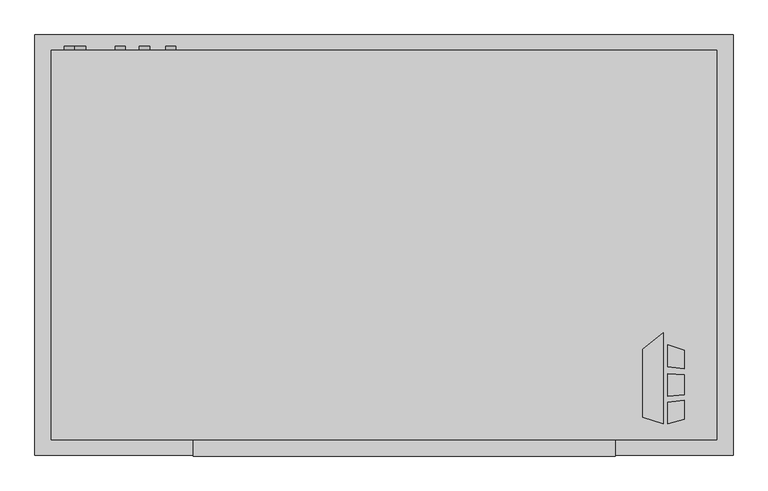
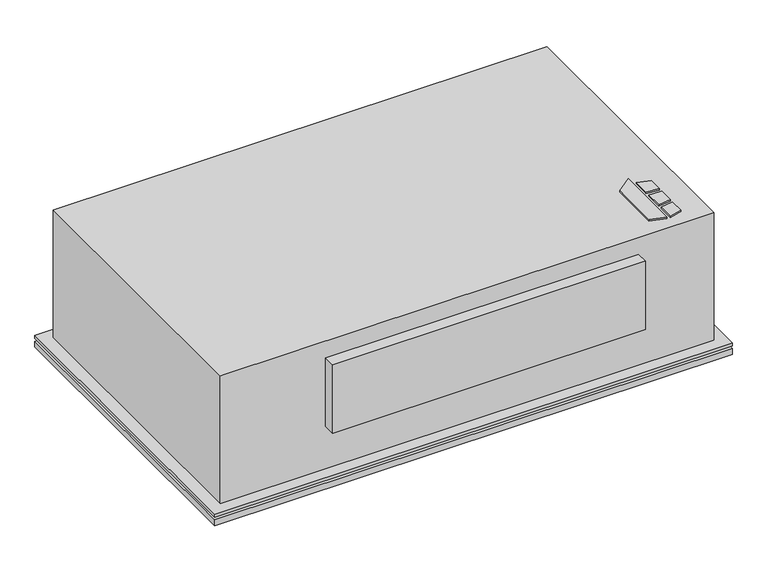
"""IFC4 building model written with IfcOpenShell, lengths in millimetres: proxy geometry, Horizontal_Telescoping_Fan_Coil_Unit_-_CBY_-_IEC_-_4-Pipe_LH_2022 : Size 04 - 277v/60Hz/1Ph - 4/1 Coil."""

from ifc_helpers import new_model, si_unit, point, frame, frame_2d, origin, origin_with_axes, place, context, project, spatial, polyline, circle_curve, trimmed, segment, composite_curve, outline, extrude, source, transform, mapped, element, save


def mechanical_equipment_db088cd1(model_context):
    return source(origin(), model_context, "Body", "SweptSolid", [
        extrude(outline(polyline([(556.9019761, -401.0078476), (589.4602728, -375.5705184), (589.4602728, -517.525), (556.9019761, -507.3054201), (556.9019761, -401.0078476)])), origin_with_axes(), (0.0, 0.0, 1.0), 3.175),
        extrude(outline(polyline([(596.2186058, -428.879852), (596.2186058, -394.3999379), (622.3, -402.5865115), (622.3, -432.0822446), (596.2186058, -428.879852)])), origin_with_axes(), (0.0, 0.0, 1.0), 3.175),
        extrude(outline(polyline([(622.3, -510.5365115), (596.2186058, -517.525), (596.2186058, -484.3036996), (622.3, -480.7618564), (622.3, -510.5365115)])), origin_with_axes(), (0.0, 0.0, 1.0), 3.175),
        extrude(outline(polyline([(622.3, -441.1638277), (622.3, -472.413983), (596.2186058, -475.155248), (596.2186058, -439.2975378), (622.3, -441.1638277)])), origin_with_axes(), (0.0, 0.0, 1.0), 3.175),
        extrude(outline(composite_curve([segment(trimmed(circle_curve(frame_2d((-60.325, -180.975)), 7.9375), [point((-60.325, -173.0375))], [point((-60.325, -188.9125))], False, "CARTESIAN"), True, "CONTINUOUS"), segment(trimmed(circle_curve(frame_2d((-60.325, -180.975)), 7.9375), [point((-60.325, -188.9125))], [point((-60.325, -173.0375))], False, "CARTESIAN"), True, "CONTINUOUS")], self_intersect=False)), frame((0.0, 66.675, 0.0), z_axis=(0.0, 1.0, 0.0), x_axis=(0.0, 0.0, 1.0)), (0.0, 0.0, 1.0), 6.35),
        extrude(outline(composite_curve([segment(trimmed(circle_curve(frame_2d((-95.25, -222.25)), 7.9375), [point((-95.25, -214.3125))], [point((-95.25, -230.1875))], False, "CARTESIAN"), True, "CONTINUOUS"), segment(trimmed(circle_curve(frame_2d((-95.25, -222.25)), 7.9375), [point((-95.25, -230.1875))], [point((-95.25, -214.3125))], False, "CARTESIAN"), True, "CONTINUOUS")], self_intersect=False)), frame((0.0, 66.675, 0.0), z_axis=(0.0, 1.0, 0.0), x_axis=(0.0, 0.0, 1.0)), (0.0, 0.0, 1.0), 6.35),
        extrude(outline(composite_curve([segment(trimmed(circle_curve(frame_2d((-44.45, -260.35)), 7.9375), [point((-44.45, -252.4125))], [point((-44.45, -268.2875))], False, "CARTESIAN"), True, "CONTINUOUS"), segment(trimmed(circle_curve(frame_2d((-44.45, -260.35)), 7.9375), [point((-44.45, -268.2875))], [point((-44.45, -252.4125))], False, "CARTESIAN"), True, "CONTINUOUS")], self_intersect=False)), frame((0.0, 66.675, 0.0), z_axis=(0.0, 1.0, 0.0), x_axis=(0.0, 0.0, 1.0)), (0.0, 0.0, 1.0), 6.35),
        extrude(outline(composite_curve([segment(trimmed(circle_curve(frame_2d((-85.725, -339.725)), 7.9375), [point((-85.725, -331.7875))], [point((-85.725, -347.6625))], False, "CARTESIAN"), True, "CONTINUOUS"), segment(trimmed(circle_curve(frame_2d((-85.725, -339.725)), 7.9375), [point((-85.725, -347.6625))], [point((-85.725, -331.7875))], False, "CARTESIAN"), True, "CONTINUOUS")], self_intersect=False)), frame((0.0, 66.675, 0.0), z_axis=(0.0, 1.0, 0.0), x_axis=(0.0, 0.0, 1.0)), (0.0, 0.0, 1.0), 6.35),
        extrude(outline(composite_curve([segment(trimmed(circle_curve(frame_2d((-260.35, -323.85)), 9.525), [point((-260.35, -314.325))], [point((-260.35, -333.375))], False, "CARTESIAN"), True, "CONTINUOUS"), segment(trimmed(circle_curve(frame_2d((-260.35, -323.85)), 9.525), [point((-260.35, -333.375))], [point((-260.35, -314.325))], False, "CARTESIAN"), True, "CONTINUOUS")], self_intersect=False)), frame((0.0, 66.675, 0.0), z_axis=(0.0, 1.0, 0.0), x_axis=(0.0, 0.0, 1.0)), (0.0, 0.0, 1.0), 6.35),
        extrude(outline(polyline([(698.5, 90.4875), (698.5, -566.7375), (-393.7, -566.7375), (-393.7, 90.4875), (698.5, 90.4875)])), frame((0.0, 0.0, -311.15), z_axis=(0.0, 0.0, 1.0), x_axis=(1.0, 0.0, 0.0)), (0.0, 0.0, 1.0), 12.7),
        extrude(outline(polyline([(698.5, 90.4875), (698.5, -566.7375), (-393.7, -566.7375), (-393.7, 90.4875), (698.5, 90.4875)])), frame((0.0, 0.0, -292.1), z_axis=(0.0, 0.0, 1.0), x_axis=(1.0, 0.0, 0.0)), (0.0, 0.0, 1.0), 6.35),
        extrude(outline(polyline([(673.1, 65.0875), (673.1, -541.3375), (-368.3, -541.3375), (-368.3, 65.0875), (673.1, 65.0875)])), frame((0.0, 0.0, -298.45), z_axis=(0.0, 0.0, 1.0), x_axis=(1.0, 0.0, 0.0)), (0.0, 0.0, 1.0), 6.35),
        extrude(outline(polyline([(514.35, -568.325), (-146.05, -568.325), (-146.05, -542.925), (514.35, -542.925), (514.35, -568.325)])), frame((0.0, 0.0, -190.5), z_axis=(0.0, 0.0, 1.0), x_axis=(1.0, 0.0, 0.0)), (0.0, 0.0, 1.0), 152.4),
        extrude(outline(polyline([(-368.3, 66.675), (673.1, 66.675), (673.1, -542.925), (-368.3, -542.925), (-368.3, 66.675)])), frame((0.0, 0.0, -285.75), z_axis=(0.0, 0.0, 1.0), x_axis=(1.0, 0.0, 0.0)), (0.0, 0.0, 1.0), 285.75),
        extrude(outline(polyline([(571.5, -9.525), (571.5, -263.525), (-266.7, -263.525), (-266.7, -9.525), (571.5, -9.525)])), frame((0.0, 0.0, -317.5), z_axis=(0.0, 0.0, 1.0), x_axis=(1.0, 0.0, 0.0)), (0.0, 0.0, 1.0), 6.35),
    ])


if __name__ == "__main__":
    model = new_model("IFC4")
    model_context = context("Model", 3, world=origin())
    ifc_project = project(units=[si_unit("LENGTHUNIT", "METRE", prefix="MILLI")], contexts=[model_context])
    site = spatial("IfcSite", under=ifc_project)
    building = spatial("IfcBuilding", under=site)
    placement = place(None, origin())
    mechanical_equipment_shape = mechanical_equipment_db088cd1(model_context)
    element("IfcBuildingElementProxy", 1, Name="Horizontal_Telescoping_Fan_Coil_Unit_-_CBY_-_IEC_-_4-Pipe_LH_2022 : Size 04 - 277v/60Hz/1Ph - 4/1 Coil", ObjectType="Horizontal_Telescoping_Fan_Coil_Unit_-_CBY_-_IEC_-_4-Pipe_LH_2022 : Size 04 - 277v/60Hz/1Ph - 4/1 Coil", at=placement, inside=building, context=model_context, shape_type="MappedRepresentation", body=[
        mapped(mechanical_equipment_shape, transform((0.0, 0.0, 0.0), x_axis=(1.0, 0.0, 0.0), y_axis=(0.0, 1.0, 0.0), z_axis=(0.0, 0.0, 1.0))),
    ])
    save(model, "model.ifc")
